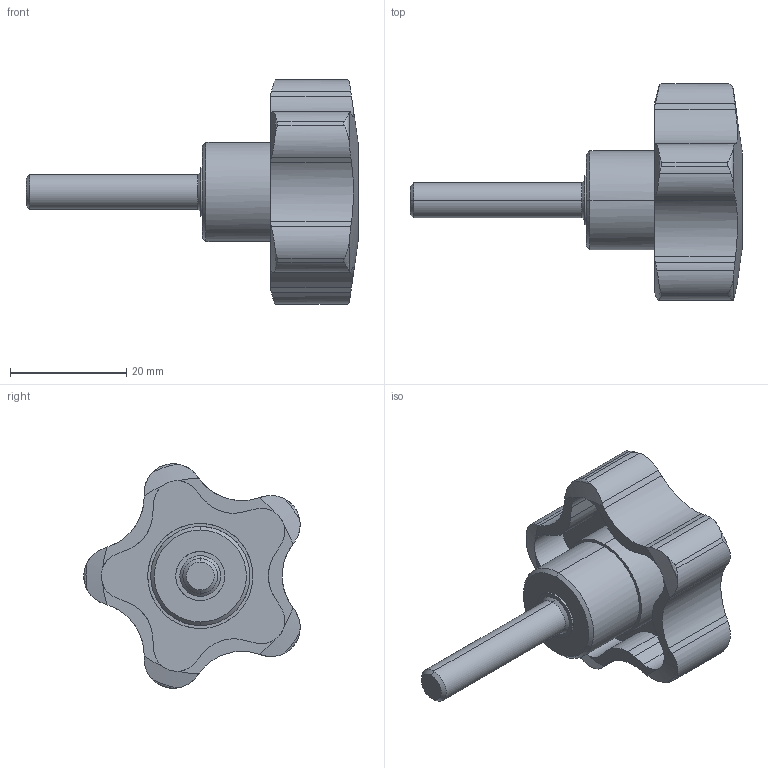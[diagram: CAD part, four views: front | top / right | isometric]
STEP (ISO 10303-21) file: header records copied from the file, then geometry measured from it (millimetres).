
FILE_DESCRIPTION (( 'STEP AP214' ), '1' );
FILE_NAME ('2.9040 Kiertonuppi M6 L30 ulkokierteellä.STEP', '2025-09-10T07:03:45', ( '' ), ( '' ), 'SwSTEP 2.0', 'SolidWorks 2025', '' );
FILE_SCHEMA (( 'AUTOMOTIVE_DESIGN' ));
Length unit declared in the file: millimetre
Products named in the file (1): 2.9040 Kiertonuppi M6 L30 ulkokierteellä
Bounding box: 57 x 37.14 x 38.55 mm (x, y, z)
Surface area: 6068.7 mm2 (no closed solid volume)
Topology: 0 solids, 2 shells, 104 faces, 282 edges, 186 vertices
Faces by surface type: cylinder 46, plane 33, cone 15, torus 10
Entity records: 5337 total; most frequent: CARTESIAN_POINT 3146, ORIENTED_EDGE 562, EDGE_CURVE 282, B_SPLINE_CURVE_WITH_KNOTS 282, DIRECTION 210, VERTEX_POINT 186, EDGE_LOOP 109, AXIS2_PLACEMENT_3D 105
